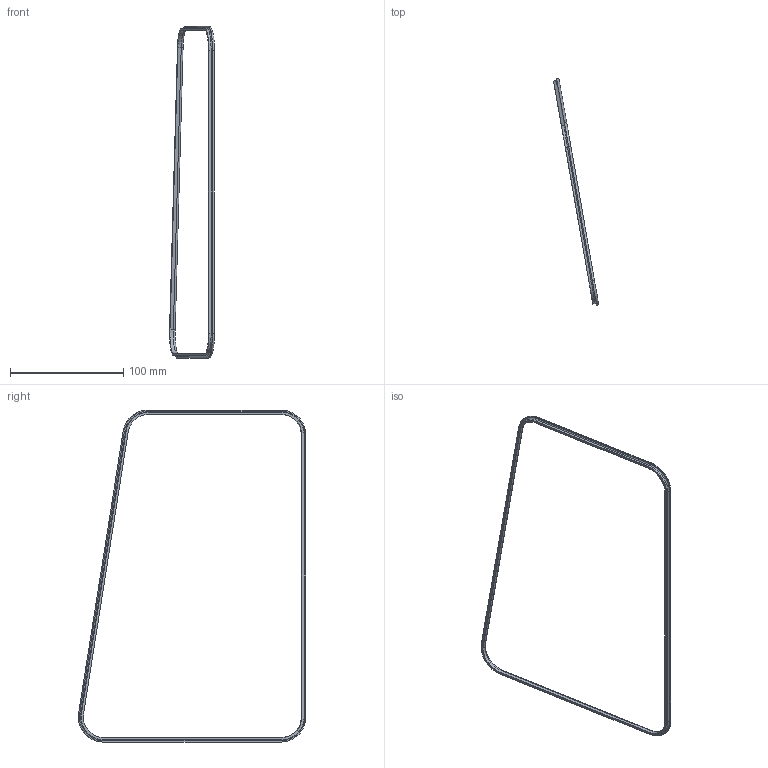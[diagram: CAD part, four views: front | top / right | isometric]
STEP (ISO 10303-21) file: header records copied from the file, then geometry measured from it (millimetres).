
FILE_DESCRIPTION(('STEP AP242 Edition 2','STEP AP242 Edition 2''CAx-IF Rec.Pracs.---Representation and Presentation of Product Manufacturing Information (PMI)---4.0---2014-10-13','STEP AP242 Edition 2''CAx-IF Rec.Pracs.---Representation and Presentation of Product Manufacturing Information (PMI)---4.0---2014-10-13''CAx-IF Rec.Pracs.---3D Tessellated Geometry---0.4---2014-09-14','STEP AP242 Edition 2''CAx-IF Rec.Pracs.---Representation and Presentation of Product Manufacturing Information (PMI)---4.0---2014-10-13''CAx-IF Rec.Pracs.---3D Tessellated Geometry---0.4---2014-09-14''2;1','STEP AP242 Edition 2''CAx-IF Rec.Pracs.---Representation and Presentation of Product Manufacturing Information (PMI)---4.0---2014-10-13''CAx-IF Rec.Pracs.---3D Tessellated Geometry---0.4---2014-09-14''2;1''CAx-IF Rec.Pracs.---User Defined Attributes---1.5---2016-08-15'),'2;1');
FILE_NAME('/vol/tmp/translate-5928582753522486027/Part Studio Body Front - Part Front Right Side Window rubber - Black.step','2026-05-02T13:02:44',(''),(''),'ST-DEVELOPER v20','ONSHAPE BY PTC INC, 1.214',' ');
FILE_SCHEMA(('AP242_MANAGED_MODEL_BASED_3D_ENGINEERING_MIM_LF { 1 0 10303 442 3 1 4 }'));
Length unit declared in the file: metre
Products named in the file (1): Part Front Right Side Window rubber - Black
Bounding box: 39.66 x 200.79 x 293 mm (x, y, z)
Volume: 11292.3 mm3; surface area: 14335 mm2
Topology: 1 solids, 1 shells, 34 faces, 80 edges, 48 vertices
Faces by surface type: cylinder 16, plane 10, torus 8
Entity records: 1002 total; most frequent: DIRECTION 190, CARTESIAN_POINT 163, ORIENTED_EDGE 160, EDGE_CURVE 80, AXIS2_PLACEMENT_3D 75, VERTEX_POINT 48, LINE 40, VECTOR 40
